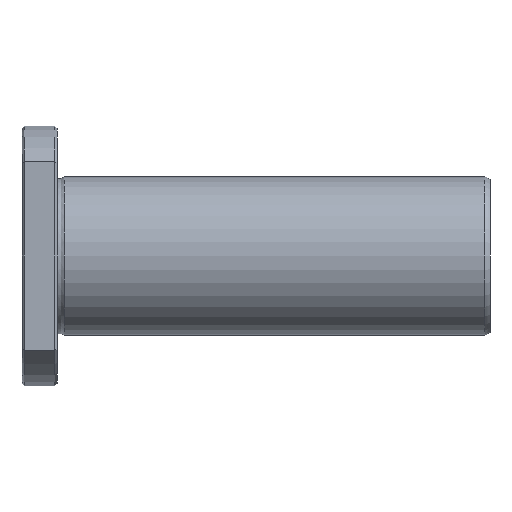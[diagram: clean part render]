
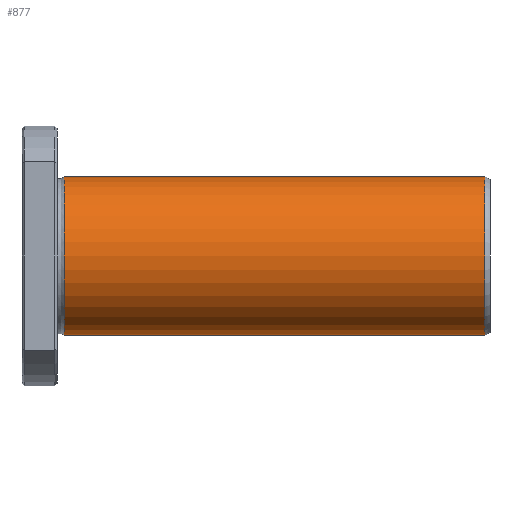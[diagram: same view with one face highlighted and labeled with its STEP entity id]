
A CAD part, front view. The second image highlights one B-rep face of the part: STEP entity #877.
In plain terms, the highlighted cylindrical face has radius 22.5 mm (diameter 45 mm), a full revolution.
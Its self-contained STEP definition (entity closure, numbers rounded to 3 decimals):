
#843=CARTESIAN_POINT('',(131.502,0.0,22.5));
#844=VERTEX_POINT('',#843);
#845=CARTESIAN_POINT('',(131.502,0.0,0.0));
#846=DIRECTION('',(-1.0,0.0,0.0));
#847=DIRECTION('',(0.0,0.0,1.0));
#848=AXIS2_PLACEMENT_3D('',#845,#846,#847);
#849=CIRCLE('',#848,22.5);
#850=EDGE_CURVE('',#844,#844,#849,.T.);
#858=CARTESIAN_POINT('',(71.762,0.0,0.0));
#859=DIRECTION('',(-1.0,0.0,0.0));
#860=DIRECTION('',(0.0,0.0,1.0));
#861=AXIS2_PLACEMENT_3D('',#858,#859,#860);
#862=CYLINDRICAL_SURFACE('',#861,22.5);
#863=CARTESIAN_POINT('',(12.023,0.0,22.5));
#864=VERTEX_POINT('',#863);
#865=CARTESIAN_POINT('',(12.023,0.0,0.0));
#866=DIRECTION('',(-1.0,0.0,0.0));
#867=DIRECTION('',(0.0,0.0,1.0));
#868=AXIS2_PLACEMENT_3D('',#865,#866,#867);
#869=CIRCLE('',#868,22.5);
#870=EDGE_CURVE('',#864,#864,#869,.T.);
#871=ORIENTED_EDGE('',*,*,#870,.F.);
#872=EDGE_LOOP('',(#871));
#873=FACE_OUTER_BOUND('',#872,.T.);
#874=ORIENTED_EDGE('',*,*,#850,.T.);
#875=EDGE_LOOP('',(#874));
#876=FACE_BOUND('',#875,.T.);
#877=ADVANCED_FACE('',(#873,#876),#862,.T.);
